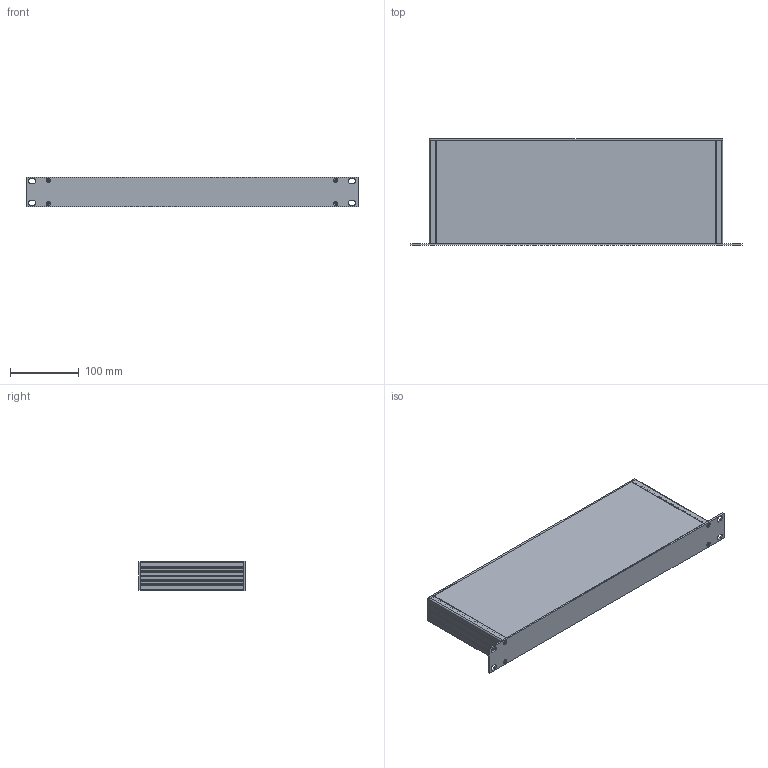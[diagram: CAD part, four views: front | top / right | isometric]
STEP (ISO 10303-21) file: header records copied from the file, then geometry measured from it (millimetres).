
FILE_DESCRIPTION(/* description */ (''),/* implementation_level */ '2;1');
FILE_NAME(/* name */ '//diskstation/Kunden/Gehäuse/Gehäuse/1HE/step/150.step',/* time_stamp */ '2022-02-17T15:26:56+01:00',/* author */ (''),/* organization */ (''),/* preprocessor_version */ 'ST-DEVELOPER v18.1',/* originating_system */ 'Autodesk Translation Framework v10.10.0.1391',/* authorisation */ '');
FILE_SCHEMA (('AUTOMOTIVE_DESIGN { 1 0 10303 214 3 1 1 }'));
Length unit declared in the file: millimetre
Products named in the file (7): 1HE Gehäuse mit Parameter (Seitenteilprofil); Frontplatte; Gehäuse; Seitenteilprofil; Rückplatte; Deckel; Bodenplatte
Assembly tree (7 placements, depth 3):
  1HE Gehäuse mit Parameter (Seitenteilprofil)
    Frontplatte
    Gehäuse
      Seitenteilprofil  x2
      Rückplatte
      Deckel
      Bodenplatte
Bounding box: 483 x 155 x 43.6 mm (x, y, z)
Volume: 454232.9 mm3; surface area: 389264.5 mm2
Topology: 6 solids, 6 shells, 252 faces, 712 edges, 472 vertices
Faces by surface type: plane 158, cylinder 86, cone 8
Full cylindrical faces by diameter (mm): 3 x4, 3.2 x8
Entity records: 5633 total; most frequent: CARTESIAN_POINT 956, DIRECTION 952, ORIENTED_EDGE 932, EDGE_CURVE 466, LINE 344, VECTOR 344, VERTEX_POINT 308, AXIS2_PLACEMENT_3D 304
